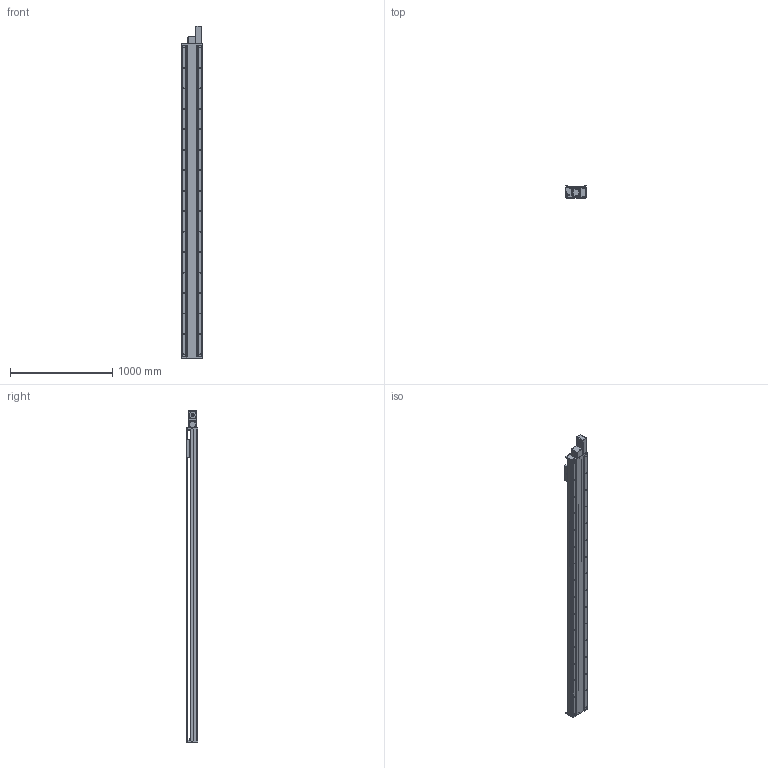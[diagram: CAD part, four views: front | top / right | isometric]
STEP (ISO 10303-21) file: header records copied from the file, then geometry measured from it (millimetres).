
FILE_DESCRIPTION(/* description */ (''),/* implementation_level */ '2;1');
FILE_NAME(/* name */ 'TKB200-FL-2800_asm1.stp',/* time_stamp */ '2016-05-18T10:54:33+08:00',/* author */ (''),/* organization */ (''),/* preprocessor_version */ 'ST-DEVELOPER v15',/* originating_system */ 'SIEMENS PLM Software NX 8.5',/* authorisation */ '');
FILE_SCHEMA (('AUTOMOTIVE_DESIGN { 1 0 10303 214 3 1 1 1 }'));
Length unit declared in the file: millimetre
Products named in the file (3): 200-2; 200-1; TKB200-FL-2800_asm1
Assembly tree (2 placements, depth 2):
  TKB200-FL-2800_asm1
    200-1
    200-2
Bounding box: 200 x 115 x 3245 mm (x, y, z)
Volume: 18159747.3 mm3; surface area: 5892089.3 mm2
Topology: 2 solids, 3 shells, 1144 faces, 3367 edges, 2174 vertices
Faces by surface type: cylinder 569, plane 489, cone 70, bspline 16
Full cylindrical faces by diameter (mm): 2.5 x2, 3.3 x16, 4.3 x4, 4.5 x8, 5 x2, 6.6 x34, 6.8 x8, 8 x6, 9 x40, 10 x4, 11 x22, 12 x16, 14 x32, 75 x1
Entity records: 41632 total; most frequent: CARTESIAN_POINT 12444, ORIENTED_EDGE 5960, DIRECTION 5862, EDGE_CURVE 2980, AXIS2_PLACEMENT_3D 2145, VERTEX_POINT 2054, EDGE_LOOP 1612, LINE 1572
